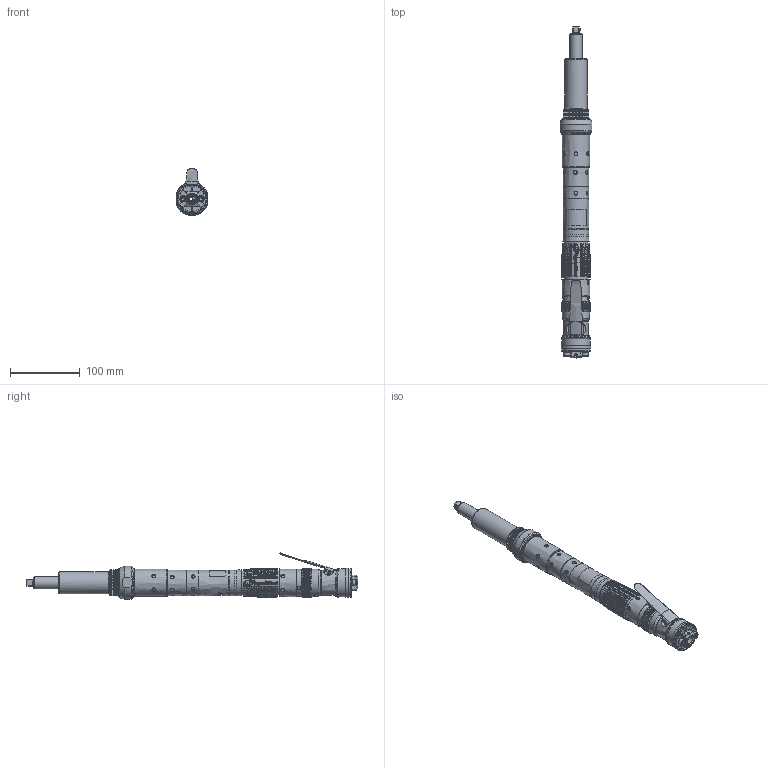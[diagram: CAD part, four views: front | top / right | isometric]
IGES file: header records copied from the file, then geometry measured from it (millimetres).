
Global section: file name: C:\Users\tbok\Documents\Tool Projects\Assembly Tools\QA4ASLS046NP41S06.igs; native system: NX V4.0; preprocessor: UGS NX IGES V4.0; date: 20151119.102256; units: millimetre
Bounding box: 45.21 x 476.98 x 67.18 mm (x, y, z)
Surface area: 80408.2 mm2 (no closed solid volume)
Topology: 0 solids, 0 shells, 2060 faces, 13132 edges, 12976 vertices
Faces by surface type: bspline 2060
